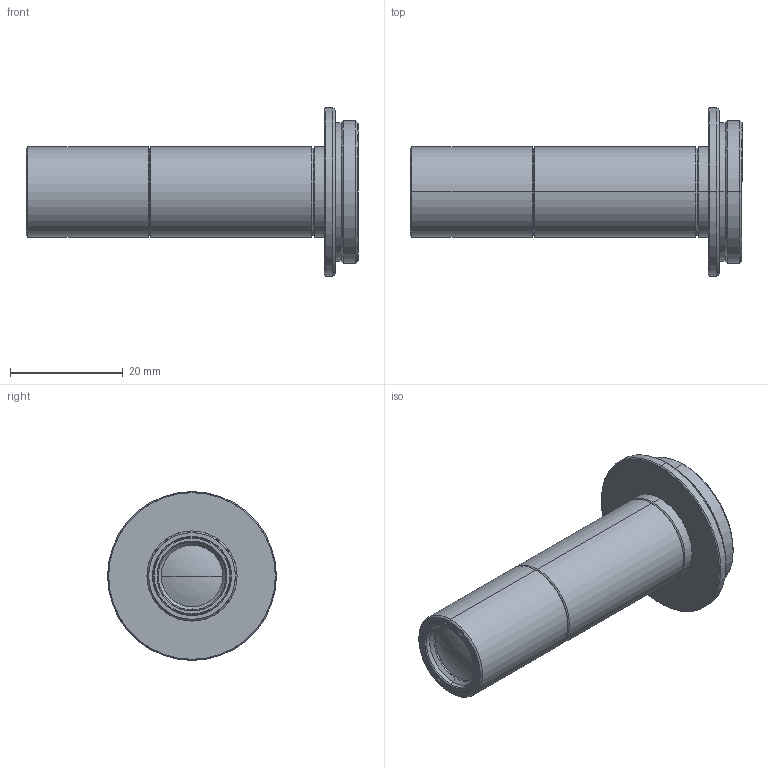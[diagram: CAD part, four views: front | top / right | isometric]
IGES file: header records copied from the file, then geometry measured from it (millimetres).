
Start section: SolidWorks IGES file using analytic representation for surfaces
Global section: file name: C:\Users\tsuji_vst\Documents\【作業フォルダ】\【3D】\00 VST\VS-MC\VS-MC05-130\VS-MC05-130.IGS; native system: SolidWorks 2018; preprocessor: SolidWorks 2018; author: tsuji_vst; date: 200323.100654; units: millimetre
Bounding box: 58.98 x 30 x 30 mm (x, y, z)
Surface area: 6544.2 mm2 (no closed solid volume)
Topology: 0 solids, 0 shells, 90 faces, 1032 edges, 1030 vertices
Faces by surface type: revolution 80, bspline 10
